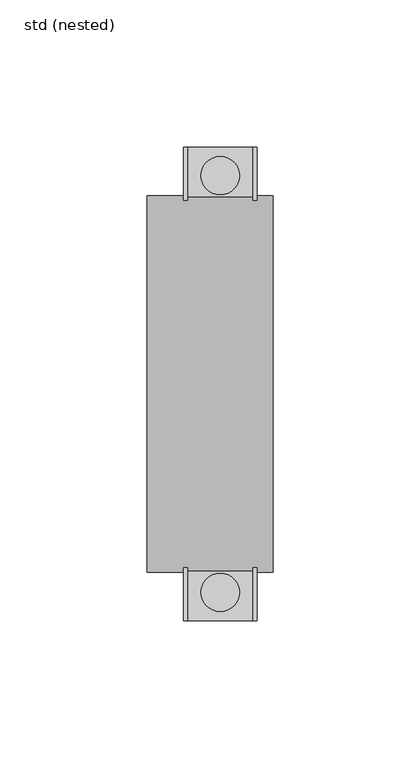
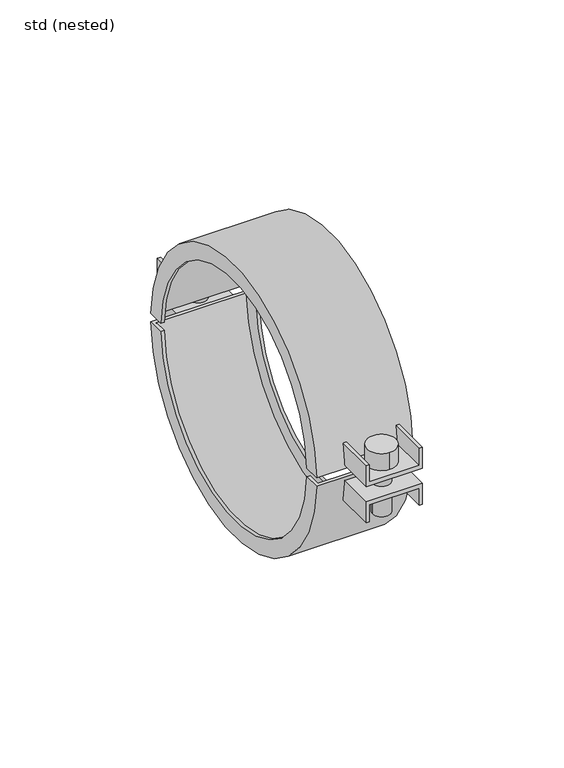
"""IFC4 building model written with IfcOpenShell, lengths in millimetres: pipe fitting geometry, ZZZ_do not use_PIF_ST_UN_ACO pipe socket clamp two parts_ACO : std (nested)."""

from ifc_helpers import new_model, si_unit, point, frame, frame_2d, origin, place, context, project, spatial, polyline, circle_curve, trimmed, segment, composite_curve, outline, extrude, source, transform, mapped, element, save
from ifc_brep_helpers import plane_surface, cylinder_surface, revolved_surface, advanced_brep


def std_nested_8d97be52(model_context):
    return source(origin(), model_context, "Body", "SolidModel", [
        advanced_brep(
        [(-21.5, 63.9687424, -2.0), (-21.5, -63.9687424, -2.0), (-21.5, -56.4645907, -2.0), (-21.5, 56.4645907, -2.0), (-20.0, -56.4645907, -2.0), (-20.0, 56.4645907, -2.0), (-20.0, -62.4679918, -2.0), (-20.0, 62.4679918, -2.0), (20.0, -62.4679918, -2.0), (20.0, 62.4679918, -2.0), (20.0, -54.9636243, -2.0), (20.0, 54.9636243, -2.0), (21.5, -54.9636243, -2.0), (21.5, 54.9636243, -2.0), (21.5, -63.9687424, -2.0), (21.5, 63.9687424, -2.0)],
        [
            (0, 1, circle_curve(frame((-21.5, 0.0, 0.0), z_axis=(-1.0, 0.0, 0.0), x_axis=(0.0, 1.0, 0.0)), 64.0)),
            (1, 2),
            (2, 3, circle_curve(frame((-21.5, 0.0, 0.0), z_axis=(1.0, 0.0, 0.0), x_axis=(0.0, 1.0, 0.0)), 56.5)),
            (3, 0),
            (2, 4),
            (4, 5, circle_curve(frame((-20.0, 0.0, 0.0), z_axis=(1.0, 0.0, 0.0), x_axis=(0.0, 1.0, 0.0)), 56.5)),
            (5, 3),
            (4, 6),
            (6, 7, circle_curve(frame((-20.0, 0.0, 0.0), z_axis=(1.0, 0.0, 0.0), x_axis=(0.0, 1.0, 0.0)), 62.5)),
            (7, 5),
            (6, 8),
            (8, 9, circle_curve(frame((20.0, 0.0, 0.0), z_axis=(1.0, 0.0, 0.0), x_axis=(0.0, 1.0, 0.0)), 62.5)),
            (9, 7),
            (8, 10),
            (10, 11, circle_curve(frame((20.0, 0.0, 0.0), z_axis=(1.0, 0.0, 0.0), x_axis=(0.0, 1.0, 0.0)), 55.0)),
            (11, 9),
            (10, 12),
            (12, 13, circle_curve(frame((21.5, 0.0, 0.0), z_axis=(1.0, 0.0, 0.0), x_axis=(0.0, 1.0, 0.0)), 55.0)),
            (13, 11),
            (12, 14),
            (14, 15, circle_curve(frame((21.5, 0.0, 0.0), z_axis=(1.0, 0.0, 0.0), x_axis=(0.0, 1.0, 0.0)), 64.0)),
            (15, 13),
            (0, 15),
            (14, 1),
        ],
        [
            plane_surface(frame((-21.5, 0.0, 0.0), z_axis=(-1.0, 0.0, 0.0), x_axis=(0.0, 1.0, 0.0))),
            revolved_surface(polyline([(-21.5, 56.5, 0.0), (-20.0, 56.5, 0.0)]), (-37.5, 0.0, 0.0), (-1.0, 0.0, 0.0)),
            plane_surface(frame((-20.0, 0.0, 0.0), z_axis=(1.0, 0.0, 0.0), x_axis=(0.0, 1.0, 0.0))),
            revolved_surface(polyline([(-20.0, 62.5, 0.0), (20.0, 62.5, 0.0)]), (-37.5, 0.0, 0.0), (-1.0, 0.0, 0.0)),
            plane_surface(frame((20.0, 0.0, 0.0), z_axis=(-1.0, 0.0, 0.0), x_axis=(0.0, 1.0, 0.0))),
            revolved_surface(polyline([(20.0, 55.0, 0.0), (21.5, 55.0, 0.0)]), (-37.5, 0.0, 0.0), (-1.0, 0.0, 0.0)),
            plane_surface(frame((21.5, 0.0, 0.0), z_axis=(1.0, 0.0, 0.0), x_axis=(0.0, 1.0, 0.0))),
            cylinder_surface(frame((-37.5, 0.0, 0.0), z_axis=(-1.0, 0.0, 0.0), x_axis=(0.0, 1.0, 0.0)), 64.0),
            plane_surface(frame((21.5, -65.0, -2.0), z_axis=(0.0, 0.0, 1.0), x_axis=(-1.0, 0.0, 0.0))),
        ],
        [
            (0, [[1, 2, 3, 4]]),
            (1, [[-3, 5, 6, 7]]),
            (2, [[-6, 8, 9, 10]]),
            (3, [[-9, 11, 12, 13]]),
            (4, [[-12, 14, 15, 16]]),
            (5, [[-15, 17, 18, 19]]),
            (6, [[-18, 20, 21, 22]]),
            (7, [[-1, 23, -21, 24]]),
            (8, [[-2, -24, -20, -17, -14, -11, -8, -5]]),
            (8, [[-4, -7, -10, -13, -16, -19, -22, -23]]),
        ],
    ),
        advanced_brep(
        [(-21.5, -63.9687424, 2.0), (-21.5, 63.9687424, 2.0), (-21.5, 56.4645907, 2.0), (-21.5, -56.4645907, 2.0), (-20.0, 56.4645907, 2.0), (-20.0, -56.4645907, 2.0), (-20.0, 62.4679918, 2.0), (-20.0, -62.4679918, 2.0), (20.0, 62.4679918, 2.0), (20.0, -62.4679918, 2.0), (20.0, 54.9636243, 2.0), (20.0, -54.9636243, 2.0), (21.5, 54.9636243, 2.0), (21.5, -54.9636243, 2.0), (21.5, 63.9687424, 2.0), (21.5, -63.9687424, 2.0)],
        [
            (0, 1, circle_curve(frame((-21.5, 0.0, 0.0), z_axis=(-1.0, 0.0, 0.0), x_axis=(0.0, 1.0, 0.0)), 64.0)),
            (1, 2),
            (2, 3, circle_curve(frame((-21.5, 0.0, 0.0), z_axis=(1.0, 0.0, 0.0), x_axis=(0.0, 1.0, 0.0)), 56.5)),
            (3, 0),
            (2, 4),
            (4, 5, circle_curve(frame((-20.0, 0.0, 0.0), z_axis=(1.0, 0.0, 0.0), x_axis=(0.0, 1.0, 0.0)), 56.5)),
            (5, 3),
            (4, 6),
            (6, 7, circle_curve(frame((-20.0, 0.0, 0.0), z_axis=(1.0, 0.0, 0.0), x_axis=(0.0, 1.0, 0.0)), 62.5)),
            (7, 5),
            (6, 8),
            (8, 9, circle_curve(frame((20.0, 0.0, 0.0), z_axis=(1.0, 0.0, 0.0), x_axis=(0.0, 1.0, 0.0)), 62.5)),
            (9, 7),
            (8, 10),
            (10, 11, circle_curve(frame((20.0, 0.0, 0.0), z_axis=(1.0, 0.0, 0.0), x_axis=(0.0, 1.0, 0.0)), 55.0)),
            (11, 9),
            (10, 12),
            (12, 13, circle_curve(frame((21.5, 0.0, 0.0), z_axis=(1.0, 0.0, 0.0), x_axis=(0.0, 1.0, 0.0)), 55.0)),
            (13, 11),
            (12, 14),
            (14, 15, circle_curve(frame((21.5, 0.0, 0.0), z_axis=(1.0, 0.0, 0.0), x_axis=(0.0, 1.0, 0.0)), 64.0)),
            (15, 13),
            (0, 15),
            (14, 1),
        ],
        [
            plane_surface(frame((-21.5, 0.0, 0.0), z_axis=(-1.0, 0.0, 0.0), x_axis=(0.0, 1.0, 0.0))),
            revolved_surface(polyline([(-21.5, 56.5, 0.0), (-20.0, 56.5, 0.0)]), (-37.5, 0.0, 0.0), (-1.0, 0.0, 0.0)),
            plane_surface(frame((-20.0, 0.0, 0.0), z_axis=(1.0, 0.0, 0.0), x_axis=(0.0, 1.0, 0.0))),
            revolved_surface(polyline([(-20.0, 62.5, 0.0), (20.0, 62.5, 0.0)]), (-37.5, 0.0, 0.0), (-1.0, 0.0, 0.0)),
            plane_surface(frame((20.0, 0.0, 0.0), z_axis=(-1.0, 0.0, 0.0), x_axis=(0.0, 1.0, 0.0))),
            revolved_surface(polyline([(20.0, 55.0, 0.0), (21.5, 55.0, 0.0)]), (-37.5, 0.0, 0.0), (-1.0, 0.0, 0.0)),
            plane_surface(frame((21.5, 0.0, 0.0), z_axis=(1.0, 0.0, 0.0), x_axis=(0.0, 1.0, 0.0))),
            cylinder_surface(frame((-37.5, 0.0, 0.0), z_axis=(-1.0, 0.0, 0.0), x_axis=(0.0, 1.0, 0.0)), 64.0),
            plane_surface(frame((21.5, 65.0, 2.0), z_axis=(0.0, 0.0, -1.0), x_axis=(-1.0, 0.0, 0.0))),
        ],
        [
            (0, [[1, 2, 3, 4]]),
            (1, [[-3, 5, 6, 7]]),
            (2, [[-6, 8, 9, 10]]),
            (3, [[-9, 11, 12, 13]]),
            (4, [[-12, 14, 15, 16]]),
            (5, [[-15, 17, 18, 19]]),
            (6, [[-18, 20, 21, 22]]),
            (7, [[-1, 23, -21, 24]]),
            (8, [[-2, -24, -20, -17, -14, -11, -8, -5]]),
            (8, [[-4, -7, -10, -13, -16, -19, -22, -23]]),
        ],
    ),
        extrude(outline(composite_curve([segment(trimmed(circle_curve(frame_2d((3.5, -70.9)), 6.5), [point((3.5, -64.4))], [point((3.5, -77.4))], False, "CARTESIAN"), True, "CONTINUOUS"), segment(trimmed(circle_curve(frame_2d((3.5, -70.9)), 6.5), [point((3.5, -77.4))], [point((3.5, -64.4))], False, "CARTESIAN"), True, "CONTINUOUS")], self_intersect=False)), frame((0.0, 0.0, 5.5), z_axis=(0.0, 0.0, 1.0), x_axis=(1.0, 0.0, 0.0)), (0.0, 0.0, 1.0), 8.0),
        extrude(outline(composite_curve([segment(trimmed(circle_curve(frame_2d((3.5, -70.9)), 4.0), [point((-0.5, -70.9))], [point((7.5, -70.9))], False, "CARTESIAN"), True, "CONTINUOUS"), segment(trimmed(circle_curve(frame_2d((3.5, -70.9)), 4.0), [point((7.5, -70.9))], [point((-0.5, -70.9))], False, "CARTESIAN"), True, "CONTINUOUS")], self_intersect=False)), frame((0.0, 0.0, -18.0), z_axis=(0.0, 0.0, 1.0), x_axis=(1.0, 0.0, 0.0)), (0.0, 0.0, 1.0), 23.5),
        advanced_brep(
        [(-9.0, -80.6, -3.5), (-9.0, -80.6, -13.5), (-7.623617, -80.6, -13.5), (-7.623617, -80.6, -5.5), (14.623617, -80.6, -5.5), (14.623617, -80.6, -13.5), (16.0, -80.6, -13.5), (16.0, -80.6, -3.5), (16.0, -62.401923, -3.5), (-9.0, -62.401923, -3.5), (16.0, -61.0245852, -13.5), (14.623617, -61.0245852, -13.5), (14.623617, -62.2575297, -5.5), (-7.623617, -62.2575297, -5.5), (-7.623617, -61.0245852, -13.5), (-9.0, -61.0245852, -13.5)],
        [
            (0, 1),
            (1, 2),
            (2, 3),
            (3, 4),
            (4, 5),
            (5, 6),
            (6, 7),
            (7, 0),
            (7, 8),
            (8, 9),
            (9, 0),
            (6, 10),
            (10, 8, circle_curve(frame((16.0, 0.0, 0.0), z_axis=(-1.0, 0.0, 0.0), x_axis=(0.0, 1.0, 0.0)), 62.5)),
            (5, 11),
            (11, 10),
            (4, 12),
            (12, 11, circle_curve(frame((14.623617, 0.0, 0.0), z_axis=(1.0, 0.0, 0.0), x_axis=(0.0, 1.0, 0.0)), 62.5)),
            (3, 13),
            (13, 12),
            (2, 14),
            (14, 13, circle_curve(frame((-7.623617, 0.0, 0.0), z_axis=(-1.0, 0.0, 0.0), x_axis=(0.0, 1.0, 0.0)), 62.5)),
            (1, 15),
            (15, 14),
            (9, 15, circle_curve(frame((-9.0, 0.0, 0.0), z_axis=(1.0, 0.0, 0.0), x_axis=(0.0, 1.0, 0.0)), 62.5)),
        ],
        [
            plane_surface(frame((3.5, -80.6, -3.5), z_axis=(0.0, -1.0, 0.0), x_axis=(0.0, 0.0, 1.0))),
            plane_surface(frame((16.0, -80.6, -3.5), z_axis=(0.0, 0.0, 1.0), x_axis=(0.0, 1.0, 0.0))),
            plane_surface(frame((16.0, -80.6, -13.5), z_axis=(1.0, 0.0, 0.0), x_axis=(0.0, 1.0, 0.0))),
            plane_surface(frame((14.623617, -80.6, -13.5), z_axis=(0.0, 0.0, -1.0), x_axis=(0.0, 1.0, 0.0))),
            plane_surface(frame((14.623617, -80.6, -5.5), z_axis=(-1.0, 0.0, 0.0), x_axis=(0.0, 1.0, 0.0))),
            plane_surface(frame((-7.623617, -80.6, -5.5), z_axis=(0.0, 0.0, -1.0), x_axis=(0.0, 1.0, 0.0))),
            plane_surface(frame((-7.623617, -80.6, -13.5), z_axis=(1.0, 0.0, 0.0), x_axis=(0.0, 1.0, 0.0))),
            plane_surface(frame((-9.0, -80.6, -13.5), z_axis=(0.0, 0.0, -1.0), x_axis=(0.0, 1.0, 0.0))),
            plane_surface(frame((-9.0, -80.6, -3.5), z_axis=(-1.0, 0.0, 0.0), x_axis=(0.0, 1.0, 0.0))),
            revolved_surface(polyline([(-9.0, 62.5, 0.0), (16.0, 62.5, 0.0)]), (-59.75, 0.0, 0.0), (-1.0, 0.0, 0.0)),
        ],
        [
            (0, [[1, 2, 3, 4, 5, 6, 7, 8]]),
            (1, [[-8, 9, 10, 11]]),
            (2, [[-7, 12, 13, -9]]),
            (3, [[-6, 14, 15, -12]]),
            (4, [[-5, 16, 17, -14]]),
            (5, [[-4, 18, 19, -16]]),
            (6, [[-3, 20, 21, -18]]),
            (7, [[-2, 22, 23, -20]]),
            (8, [[-1, -11, 24, -22]]),
            (9, [[-10, -13, -15, -17, -19, -21, -23, -24]]),
        ],
    ),
        advanced_brep(
        [(-9.0, 80.6, -3.5), (16.0, 80.6, -3.5), (16.0, 80.6, -13.5), (14.623617, 80.6, -13.5), (14.623617, 80.6, -5.5), (-7.623617, 80.6, -5.5), (-7.623617, 80.6, -13.5), (-9.0, 80.6, -13.5), (-9.0, 62.401923, -3.5), (16.0, 62.401923, -3.5), (16.0, 61.0245852, -13.5), (14.623617, 61.0245852, -13.5), (14.623617, 62.2575297, -5.5), (-7.623617, 62.2575297, -5.5), (-7.623617, 61.0245852, -13.5), (-9.0, 61.0245852, -13.5)],
        [
            (0, 1),
            (1, 2),
            (2, 3),
            (3, 4),
            (4, 5),
            (5, 6),
            (6, 7),
            (7, 0),
            (0, 8),
            (8, 9),
            (9, 1),
            (9, 10, circle_curve(frame((16.0, 0.0, 0.0), z_axis=(-1.0, 0.0, 0.0), x_axis=(0.0, 1.0, 0.0)), 62.5)),
            (10, 2),
            (10, 11),
            (11, 3),
            (11, 12, circle_curve(frame((14.623617, 0.0, 0.0), z_axis=(1.0, 0.0, 0.0), x_axis=(0.0, 1.0, 0.0)), 62.5)),
            (12, 4),
            (12, 13),
            (13, 5),
            (13, 14, circle_curve(frame((-7.623617, 0.0, 0.0), z_axis=(-1.0, 0.0, 0.0), x_axis=(0.0, 1.0, 0.0)), 62.5)),
            (14, 6),
            (14, 15),
            (15, 7),
            (15, 8, circle_curve(frame((-9.0, 0.0, 0.0), z_axis=(1.0, 0.0, 0.0), x_axis=(0.0, 1.0, 0.0)), 62.5)),
        ],
        [
            plane_surface(frame((3.5, 80.6, -3.5), z_axis=(0.0, 1.0, 0.0), x_axis=(0.0, 0.0, 1.0))),
            plane_surface(frame((16.0, -80.6, -3.5), z_axis=(0.0, 0.0, 1.0), x_axis=(0.0, 1.0, 0.0))),
            plane_surface(frame((16.0, -80.6, -13.5), z_axis=(1.0, 0.0, 0.0), x_axis=(0.0, 1.0, 0.0))),
            plane_surface(frame((14.623617, -80.6, -13.5), z_axis=(0.0, 0.0, -1.0), x_axis=(0.0, 1.0, 0.0))),
            plane_surface(frame((14.623617, -80.6, -5.5), z_axis=(-1.0, 0.0, 0.0), x_axis=(0.0, 1.0, 0.0))),
            plane_surface(frame((-7.623617, -80.6, -5.5), z_axis=(0.0, 0.0, -1.0), x_axis=(0.0, 1.0, 0.0))),
            plane_surface(frame((-7.623617, -80.6, -13.5), z_axis=(1.0, 0.0, 0.0), x_axis=(0.0, 1.0, 0.0))),
            plane_surface(frame((-9.0, -80.6, -13.5), z_axis=(0.0, 0.0, -1.0), x_axis=(0.0, 1.0, 0.0))),
            plane_surface(frame((-9.0, -80.6, -3.5), z_axis=(-1.0, 0.0, 0.0), x_axis=(0.0, 1.0, 0.0))),
            revolved_surface(polyline([(-9.0, 62.5, 0.0), (16.0, 62.5, 0.0)]), (-59.75, 0.0, 0.0), (-1.0, 0.0, 0.0)),
        ],
        [
            (0, [[1, 2, 3, 4, 5, 6, 7, 8]]),
            (1, [[-1, 9, 10, 11]]),
            (2, [[-2, -11, 12, 13]]),
            (3, [[-3, -13, 14, 15]]),
            (4, [[-4, -15, 16, 17]]),
            (5, [[-5, -17, 18, 19]]),
            (6, [[-6, -19, 20, 21]]),
            (7, [[-7, -21, 22, 23]]),
            (8, [[-8, -23, 24, -9]]),
            (9, [[-10, -24, -22, -20, -18, -16, -14, -12]]),
        ],
    ),
        advanced_brep(
        [(-9.0, -80.6, 3.5), (16.0, -80.6, 3.5), (16.0, -80.6, 13.5), (14.623617, -80.6, 13.5), (14.623617, -80.6, 5.5), (-7.623617, -80.6, 5.5), (-7.623617, -80.6, 13.5), (-9.0, -80.6, 13.5), (-9.0, -62.401923, 3.5), (16.0, -62.401923, 3.5), (16.0, -61.0245852, 13.5), (14.623617, -61.0245852, 13.5), (14.623617, -62.2575297, 5.5), (-7.623617, -62.2575297, 5.5), (-7.623617, -61.0245852, 13.5), (-9.0, -61.0245852, 13.5)],
        [
            (0, 1),
            (1, 2),
            (2, 3),
            (3, 4),
            (4, 5),
            (5, 6),
            (6, 7),
            (7, 0),
            (0, 8),
            (8, 9),
            (9, 1),
            (9, 10, circle_curve(frame((16.0, 0.0, 0.0), z_axis=(-1.0, 0.0, 0.0), x_axis=(0.0, 1.0, 0.0)), 62.5)),
            (10, 2),
            (10, 11),
            (11, 3),
            (11, 12, circle_curve(frame((14.623617, 0.0, 0.0), z_axis=(1.0, 0.0, 0.0), x_axis=(0.0, 1.0, 0.0)), 62.5)),
            (12, 4),
            (12, 13),
            (13, 5),
            (13, 14, circle_curve(frame((-7.623617, 0.0, 0.0), z_axis=(-1.0, 0.0, 0.0), x_axis=(0.0, 1.0, 0.0)), 62.5)),
            (14, 6),
            (14, 15),
            (15, 7),
            (15, 8, circle_curve(frame((-9.0, 0.0, 0.0), z_axis=(1.0, 0.0, 0.0), x_axis=(0.0, 1.0, 0.0)), 62.5)),
        ],
        [
            plane_surface(frame((3.5, -80.6, 3.5), z_axis=(0.0, -1.0, 0.0), x_axis=(0.0, 0.0, 1.0))),
            plane_surface(frame((-9.0, -80.6, 3.5), z_axis=(0.0, 0.0, -1.0), x_axis=(0.0, 1.0, 0.0))),
            plane_surface(frame((16.0, -80.6, 3.5), z_axis=(1.0, 0.0, 0.0), x_axis=(0.0, 1.0, 0.0))),
            plane_surface(frame((16.0, -80.6, 13.5), z_axis=(0.0, 0.0, 1.0), x_axis=(0.0, 1.0, 0.0))),
            plane_surface(frame((14.623617, -80.6, 13.5), z_axis=(-1.0, 0.0, 0.0), x_axis=(0.0, 1.0, 0.0))),
            plane_surface(frame((14.623617, -80.6, 5.5), z_axis=(0.0, 0.0, 1.0), x_axis=(0.0, 1.0, 0.0))),
            plane_surface(frame((-7.623617, -80.6, 5.5), z_axis=(1.0, 0.0, 0.0), x_axis=(0.0, 1.0, 0.0))),
            plane_surface(frame((-7.623617, -80.6, 13.5), z_axis=(0.0, 0.0, 1.0), x_axis=(0.0, 1.0, 0.0))),
            plane_surface(frame((-9.0, -80.6, 13.5), z_axis=(-1.0, 0.0, 0.0), x_axis=(0.0, 1.0, 0.0))),
            revolved_surface(polyline([(-9.0, 62.5, 0.0), (16.0, 62.5, 0.0)]), (-59.75, 0.0, 0.0), (-1.0, 0.0, 0.0)),
        ],
        [
            (0, [[1, 2, 3, 4, 5, 6, 7, 8]]),
            (1, [[-1, 9, 10, 11]]),
            (2, [[-2, -11, 12, 13]]),
            (3, [[-3, -13, 14, 15]]),
            (4, [[-4, -15, 16, 17]]),
            (5, [[-5, -17, 18, 19]]),
            (6, [[-6, -19, 20, 21]]),
            (7, [[-7, -21, 22, 23]]),
            (8, [[-8, -23, 24, -9]]),
            (9, [[-10, -24, -22, -20, -18, -16, -14, -12]]),
        ],
    ),
        advanced_brep(
        [(-9.0, 80.6, 3.5), (-9.0, 80.6, 13.5), (-7.623617, 80.6, 13.5), (-7.623617, 80.6, 5.5), (14.623617, 80.6, 5.5), (14.623617, 80.6, 13.5), (16.0, 80.6, 13.5), (16.0, 80.6, 3.5), (16.0, 62.401923, 3.5), (-9.0, 62.401923, 3.5), (16.0, 61.0245852, 13.5), (14.623617, 61.0245852, 13.5), (14.623617, 62.2575297, 5.5), (-7.623617, 62.2575297, 5.5), (-7.623617, 61.0245852, 13.5), (-9.0, 61.0245852, 13.5)],
        [
            (0, 1),
            (1, 2),
            (2, 3),
            (3, 4),
            (4, 5),
            (5, 6),
            (6, 7),
            (7, 0),
            (7, 8),
            (8, 9),
            (9, 0),
            (6, 10),
            (10, 8, circle_curve(frame((16.0, 0.0, 0.0), z_axis=(-1.0, 0.0, 0.0), x_axis=(0.0, 1.0, 0.0)), 62.5)),
            (5, 11),
            (11, 10),
            (4, 12),
            (12, 11, circle_curve(frame((14.623617, 0.0, 0.0), z_axis=(1.0, 0.0, 0.0), x_axis=(0.0, 1.0, 0.0)), 62.5)),
            (3, 13),
            (13, 12),
            (2, 14),
            (14, 13, circle_curve(frame((-7.623617, 0.0, 0.0), z_axis=(-1.0, 0.0, 0.0), x_axis=(0.0, 1.0, 0.0)), 62.5)),
            (1, 15),
            (15, 14),
            (9, 15, circle_curve(frame((-9.0, 0.0, 0.0), z_axis=(1.0, 0.0, 0.0), x_axis=(0.0, 1.0, 0.0)), 62.5)),
        ],
        [
            plane_surface(frame((3.5, 80.6, 3.5), z_axis=(0.0, 1.0, 0.0), x_axis=(0.0, 0.0, 1.0))),
            plane_surface(frame((-9.0, -80.6, 3.5), z_axis=(0.0, 0.0, -1.0), x_axis=(0.0, 1.0, 0.0))),
            plane_surface(frame((16.0, -80.6, 3.5), z_axis=(1.0, 0.0, 0.0), x_axis=(0.0, 1.0, 0.0))),
            plane_surface(frame((16.0, -80.6, 13.5), z_axis=(0.0, 0.0, 1.0), x_axis=(0.0, 1.0, 0.0))),
            plane_surface(frame((14.623617, -80.6, 13.5), z_axis=(-1.0, 0.0, 0.0), x_axis=(0.0, 1.0, 0.0))),
            plane_surface(frame((14.623617, -80.6, 5.5), z_axis=(0.0, 0.0, 1.0), x_axis=(0.0, 1.0, 0.0))),
            plane_surface(frame((-7.623617, -80.6, 5.5), z_axis=(1.0, 0.0, 0.0), x_axis=(0.0, 1.0, 0.0))),
            plane_surface(frame((-7.623617, -80.6, 13.5), z_axis=(0.0, 0.0, 1.0), x_axis=(0.0, 1.0, 0.0))),
            plane_surface(frame((-9.0, -80.6, 13.5), z_axis=(-1.0, 0.0, 0.0), x_axis=(0.0, 1.0, 0.0))),
            revolved_surface(polyline([(-9.0, 62.5, 0.0), (16.0, 62.5, 0.0)]), (-59.75, 0.0, 0.0), (-1.0, 0.0, 0.0)),
        ],
        [
            (0, [[1, 2, 3, 4, 5, 6, 7, 8]]),
            (1, [[-8, 9, 10, 11]]),
            (2, [[-7, 12, 13, -9]]),
            (3, [[-6, 14, 15, -12]]),
            (4, [[-5, 16, 17, -14]]),
            (5, [[-4, 18, 19, -16]]),
            (6, [[-3, 20, 21, -18]]),
            (7, [[-2, 22, 23, -20]]),
            (8, [[-1, -11, 24, -22]]),
            (9, [[-10, -13, -15, -17, -19, -21, -23, -24]]),
        ],
    ),
        extrude(outline(composite_curve([segment(trimmed(circle_curve(frame_2d((3.5, 70.9)), 6.5), [point((3.5, 64.4))], [point((3.5, 77.4))], False, "CARTESIAN"), True, "CONTINUOUS"), segment(trimmed(circle_curve(frame_2d((3.5, 70.9)), 6.5), [point((3.5, 77.4))], [point((3.5, 64.4))], False, "CARTESIAN"), True, "CONTINUOUS")], self_intersect=False)), frame((0.0, 0.0, 5.5), z_axis=(0.0, 0.0, 1.0), x_axis=(1.0, 0.0, 0.0)), (0.0, 0.0, 1.0), 8.0),
        extrude(outline(composite_curve([segment(trimmed(circle_curve(frame_2d((3.5, 70.9)), 4.0), [point((-0.5, 70.9))], [point((7.5, 70.9))], False, "CARTESIAN"), True, "CONTINUOUS"), segment(trimmed(circle_curve(frame_2d((3.5, 70.9)), 4.0), [point((7.5, 70.9))], [point((-0.5, 70.9))], False, "CARTESIAN"), True, "CONTINUOUS")], self_intersect=False)), frame((0.0, 0.0, -18.0), z_axis=(0.0, 0.0, 1.0), x_axis=(1.0, 0.0, 0.0)), (0.0, 0.0, 1.0), 23.5),
    ])


if __name__ == "__main__":
    model = new_model("IFC4")
    model_context = context("Model", 3, world=origin())
    ifc_project = project(units=[si_unit("LENGTHUNIT", "METRE", prefix="MILLI")], contexts=[model_context])
    site = spatial("IfcSite", under=ifc_project)
    building = spatial("IfcBuilding", under=site)
    placement = place(None, origin())
    std_nested_shape = std_nested_8d97be52(model_context)
    element("IfcPipeFitting", 1, ObjectType="ZZZ_do not use_PIF_ST_UN_ACO pipe socket clamp two parts_ACO : std (nested)", at=placement, inside=building, context=model_context, shape_type="MappedRepresentation", body=[
        mapped(std_nested_shape, transform((0.0, 0.0, 0.0), x_axis=(1.0, 0.0, 0.0), y_axis=(0.0, 1.0, 0.0), z_axis=(0.0, 0.0, 1.0))),
    ])
    save(model, "model.ifc")
